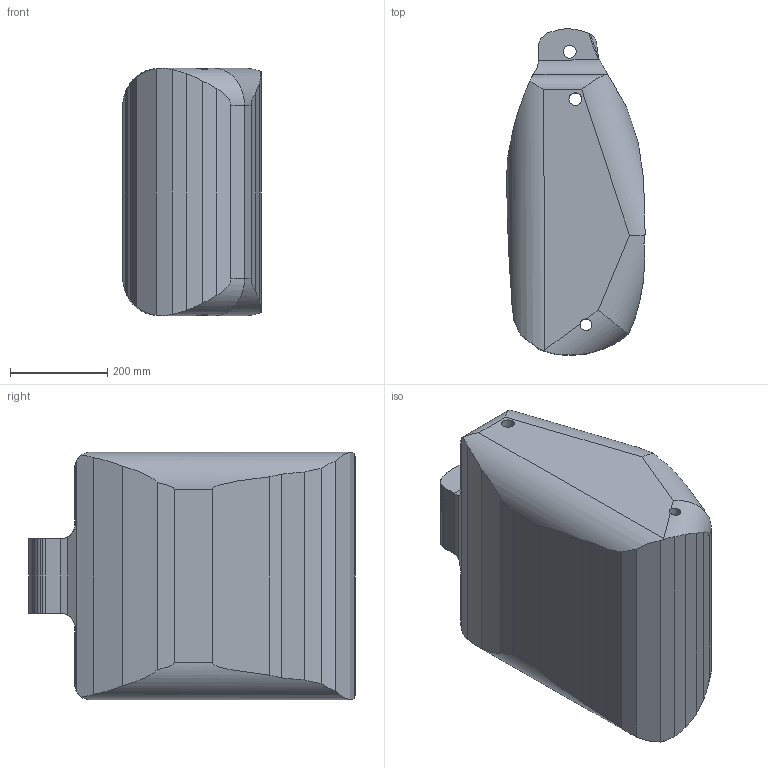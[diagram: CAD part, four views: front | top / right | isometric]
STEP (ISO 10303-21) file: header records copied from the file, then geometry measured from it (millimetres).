
FILE_DESCRIPTION(/* description */ ('Alibre Inc.'),/* implementation_level */ '2;1');
FILE_NAME(/* name */ 'export0',/* time_stamp */ '2007-03-23T19:18:54-07:00',/* author */ (''),/* organization */ (''),/* preprocessor_version */ 'ST-DEVELOPER v10',/* originating_system */ 'Alibre',/* authorisation */ '');
FILE_SCHEMA (('ALIBRE_SCHEMA','CONFIG_CONTROL_DESIGN'));
Length unit declared in the file: centimetre
Products named in the file (1): ID_1
Bounding box: 283.87 x 670.83 x 508 mm (x, y, z)
Volume: 72120353.1 mm3; surface area: 1108702.5 mm2
Topology: 1 solids, 1 shells, 71 faces, 207 edges, 136 vertices
Faces by surface type: plane 45, cylinder 24, bspline 2
Full cylindrical faces by diameter (mm): 23.937 x1, 26.176 x1, 26.461 x1
Entity records: 3730 total; most frequent: CARTESIAN_POINT 765, DIRECTION 460, ORIENTED_EDGE 408, EDGE_CURVE 204, PERSISTANTTOPOLOGYATTRIBUTE 177, AXIS2_PLACEMENT_3D 172, VECTOR 162, LINE 145
